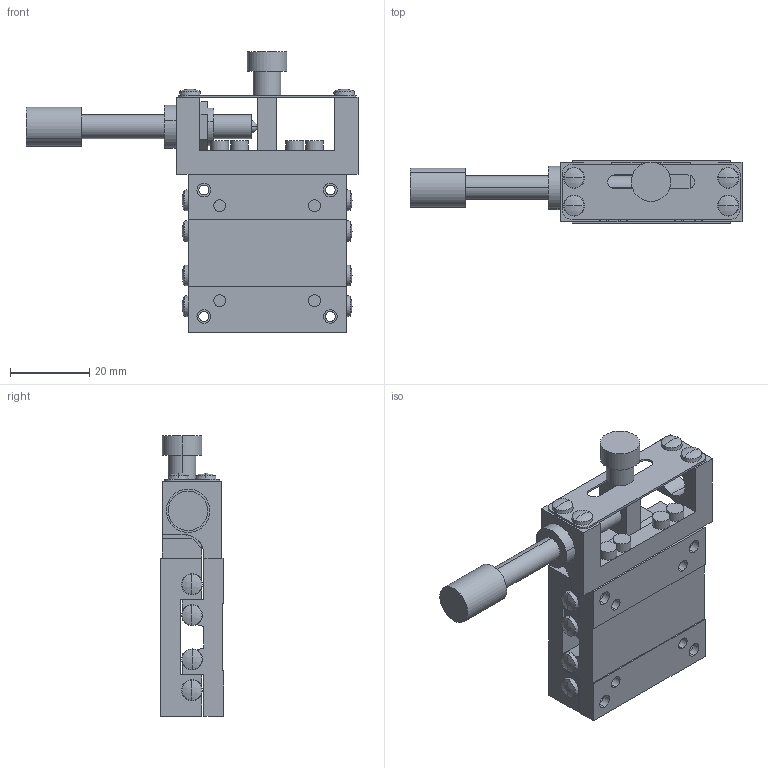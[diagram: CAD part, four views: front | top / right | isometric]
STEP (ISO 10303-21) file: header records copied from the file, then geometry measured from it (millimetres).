
FILE_DESCRIPTION (( 'STEP AP214' ), '1' );
FILE_NAME ('LS‐4041‐SR6‐2.STEP', '2007-08-28T03:32:49', ( '' ), ( '' ), 'SwSTEP 2.0', 'SolidWorks 2006303', '' );
FILE_SCHEMA (( 'AUTOMOTIVE_DESIGN' ));
Length unit declared in the file: millimetre
Products named in the file (3): LS‐4041‐SR6‐2; LS40R620－2_ﾃﾞﾌｫﾙﾄ; LS40R620－1_ﾃﾞﾌｫﾙﾄ
Assembly tree (2 placements, depth 2):
  LS‐4041‐SR6‐2
    LS40R620－1_ﾃﾞﾌｫﾙﾄ
    LS40R620－2_ﾃﾞﾌｫﾙﾄ
Bounding box: 84 x 16 x 71 mm (x, y, z)
Volume: 31155.4 mm3; surface area: 17170.2 mm2
Topology: 3 solids, 3 shells, 238 faces, 595 edges, 379 vertices
Faces by surface type: plane 109, cylinder 79, sphere 26, cone 24
Entity records: 7280 total; most frequent: DIRECTION 1345, CARTESIAN_POINT 1211, ORIENTED_EDGE 1182, EDGE_CURVE 591, AXIS2_PLACEMENT_3D 511, VERTEX_POINT 377, LINE 323, VECTOR 323
